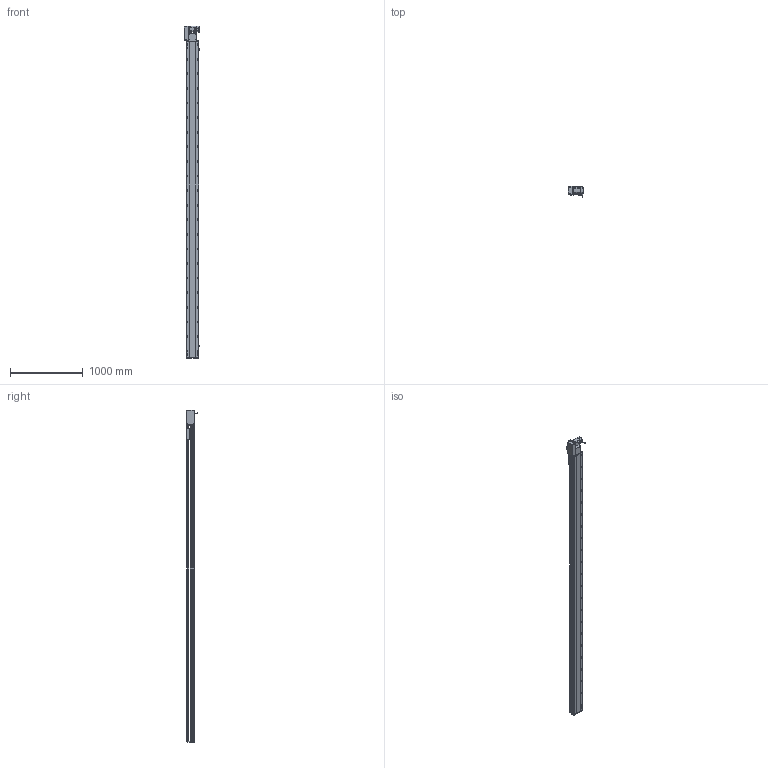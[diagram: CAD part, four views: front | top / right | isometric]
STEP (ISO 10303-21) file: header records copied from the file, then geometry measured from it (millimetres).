
FILE_DESCRIPTION (( 'STEP AP214' ), '1' );
FILE_NAME ('RTB17S-XX-4050-L-M75-C4.STEP', '2025-12-12T00:31:11', ( '' ), ( '' ), 'SwSTEP 2.0', 'SolidWorks 2018', '' );
FILE_SCHEMA (( 'AUTOMOTIVE_DESIGN' ));
Length unit declared in the file: millimetre
Products named in the file (15): RTB17S-XX-4050-L-M75-C4; RTB17S-L-004-賑釱^RTB17S-賑釱_RTB17S-XX-XX-L-M75-C4; RTB22S-GY-005P^RTB17S-L-々湍釱蚾饜-750W_RTB17S-XX-XX-L-M75-C4; RTB17S-L-007奻裔^RTB17S-XX-XX-L-M75-C4; RMP17S-L-014-T20-P75--々湍釱^RTB17S-L-々湍釱蚾饜-750W_RTB17S-XX-XX-L-M75-C4; RTB17S-L-001-耜醱啣^RTB17S-XX-XX-L-M75-C4; RTH13-BL-012覜茼え俋离^RTB17S-賑釱_RTB17S-XX-XX-L-M75-C4; EE672^RTB17S-XX-XX-L-M75-C4; RTB22S-GY-017P^RTB17S-L-々湍釱蚾饜-750W_RTB17S-XX-XX-L-M75-C4; RTB17S-L-々湍釱蚾饜-750W^RTB17S-XX-XX-L-M75-C4; 750W萇儂^RTB17S-XX-XX-L-M75-C4; RTB17S-賑釱^RTB17S-XX-XX-L-M75-C4; RTB22S-GY-018P^RTB17S-L-々湍釱蚾饜-750W_RTB17S-XX-XX-L-M75-C4; RTB22S-GY-008-M75--萇儂啣^RTB17S-L-々湍釱蚾饜-750W_RTB17S-XX-XX-L-M75-C4; RTB17-R-011菁釱^RTB17S-XX-XX-L-M75-C4
Assembly tree (17 placements, depth 3):
  RTB17S-XX-4050-L-M75-C4
    RTB17-R-011菁釱^RTB17S-XX-XX-L-M75-C4
    EE672^RTB17S-XX-XX-L-M75-C4  x3
    RTB17S-L-001-耜醱啣^RTB17S-XX-XX-L-M75-C4
    RTB17S-賑釱^RTB17S-XX-XX-L-M75-C4
      RTB17S-L-004-賑釱^RTB17S-賑釱_RTB17S-XX-XX-L-M75-C4
      RTH13-BL-012覜茼え俋离^RTB17S-賑釱_RTB17S-XX-XX-L-M75-C4
    RTB17S-L-007奻裔^RTB17S-XX-XX-L-M75-C4
    750W萇儂^RTB17S-XX-XX-L-M75-C4
    RTB17S-L-々湍釱蚾饜-750W^RTB17S-XX-XX-L-M75-C4
      RMP17S-L-014-T20-P75--々湍釱^RTB17S-L-々湍釱蚾饜-750W_RTB17S-XX-XX-L-M75-C4
      RTB22S-GY-005P^RTB17S-L-々湍釱蚾饜-750W_RTB17S-XX-XX-L-M75-C4
      RTB22S-GY-017P^RTB17S-L-々湍釱蚾饜-750W_RTB17S-XX-XX-L-M75-C4  x2
      RTB22S-GY-008-M75--萇儂啣^RTB17S-L-々湍釱蚾饜-750W_RTB17S-XX-XX-L-M75-C4
      RTB22S-GY-018P^RTB17S-L-々湍釱蚾饜-750W_RTB17S-XX-XX-L-M75-C4
Bounding box: 210.4 x 152.7 x 4549 mm (x, y, z)
Volume: 31261931.3 mm3; surface area: 5819121.8 mm2
Topology: 17 solids, 17 shells, 2345 faces, 6646 edges, 4310 vertices
Faces by surface type: plane 1002, cylinder 927, bspline 294, cone 110, sphere 8, torus 4
Entity records: 70390 total; most frequent: CARTESIAN_POINT 21110, ORIENTED_EDGE 10136, DIRECTION 9302, EDGE_CURVE 5068, AXIS2_PLACEMENT_3D 3330, VERTEX_POINT 3314, VECTOR 2642, LINE 2642
